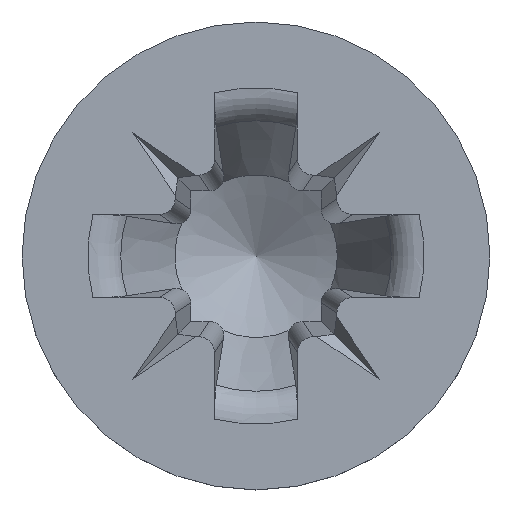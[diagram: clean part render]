
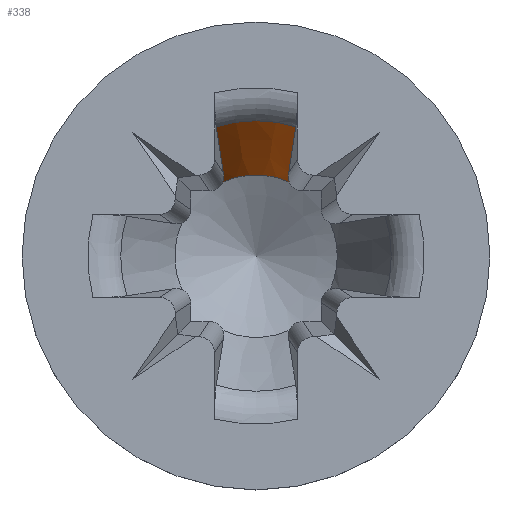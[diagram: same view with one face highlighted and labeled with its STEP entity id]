
A CAD part, top view. The second image highlights one B-rep face of the part: STEP entity #338.
In plain terms, the highlighted conical face has half-angle 26.5 degrees and reference radius 0.66 mm.
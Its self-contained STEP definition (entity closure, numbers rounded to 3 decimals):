
#324=CONICAL_SURFACE('',#1614,0.66,26.5);
#338=ADVANCED_FACE('',(#437),#324,.F.);
#437=FACE_OUTER_BOUND('',#533,.T.);
#533=EDGE_LOOP('',(#729,#730,#731,#732,#733,#734));
#631=CIRCLE('',#1612,1.098);
#632=CIRCLE('',#1613,0.66);
#729=ORIENTED_EDGE('',*,*,#1328,.T.);
#730=ORIENTED_EDGE('',*,*,#1329,.T.);
#731=ORIENTED_EDGE('',*,*,#1330,.T.);
#732=ORIENTED_EDGE('',*,*,#1331,.T.);
#733=ORIENTED_EDGE('',*,*,#1332,.T.);
#734=ORIENTED_EDGE('',*,*,#1333,.T.);
#1178=VERTEX_POINT('',#3622);
#1179=VERTEX_POINT('',#3623);
#1180=VERTEX_POINT('',#3625);
#1181=VERTEX_POINT('',#3630);
#1182=VERTEX_POINT('',#3635);
#1183=VERTEX_POINT('',#3637);
#1328=EDGE_CURVE('',#1178,#1179,#1513,.T.);
#1329=EDGE_CURVE('',#1179,#1180,#631,.T.);
#1330=EDGE_CURVE('',#1180,#1181,#1514,.T.);
#1331=EDGE_CURVE('',#1181,#1182,#1515,.T.);
#1332=EDGE_CURVE('',#1182,#1183,#632,.T.);
#1333=EDGE_CURVE('',#1183,#1178,#1516,.T.);
#1513=B_SPLINE_CURVE_WITH_KNOTS('',3,(#3618,#3619,#3620,#3621),
 .UNSPECIFIED.,.F.,.F.,(4,4),(0.,1.),.UNSPECIFIED.);
#1514=B_SPLINE_CURVE_WITH_KNOTS('',3,(#3626,#3627,#3628,#3629),
 .UNSPECIFIED.,.F.,.F.,(4,4),(0.,1.),.UNSPECIFIED.);
#1515=B_SPLINE_CURVE_WITH_KNOTS('',3,(#3631,#3632,#3633,#3634),
 .UNSPECIFIED.,.F.,.F.,(4,4),(0.,1.),.UNSPECIFIED.);
#1516=B_SPLINE_CURVE_WITH_KNOTS('',3,(#3638,#3639,#3640,#3641),
 .UNSPECIFIED.,.F.,.F.,(4,4),(0.,1.),.UNSPECIFIED.);
#1612=AXIS2_PLACEMENT_3D('',#3624,#1748,#1749);
#1613=AXIS2_PLACEMENT_3D('',#3636,#1750,#1751);
#1614=AXIS2_PLACEMENT_3D('',#3642,#1752,#1753);
#1748=DIRECTION('',(0.,0.,1.));
#1749=DIRECTION('',(1.,0.,0.));
#1750=DIRECTION('',(0.,0.,-1.));
#1751=DIRECTION('',(1.,0.,0.));
#1752=DIRECTION('',(0.,0.,1.));
#1753=DIRECTION('',(1.,0.,0.));
#3618=CARTESIAN_POINT('',(0.265,0.677,0.53));
#3619=CARTESIAN_POINT('',(0.285,0.802,0.777));
#3620=CARTESIAN_POINT('',(0.304,0.926,1.026));
#3621=CARTESIAN_POINT('',(0.323,1.049,1.274));
#3622=CARTESIAN_POINT('',(0.265,0.677,0.53));
#3623=CARTESIAN_POINT('',(0.323,1.049,1.274));
#3624=CARTESIAN_POINT('',(0.,0.,1.274));
#3625=CARTESIAN_POINT('',(-0.323,1.049,1.274));
#3626=CARTESIAN_POINT('',(-0.323,1.049,1.274));
#3627=CARTESIAN_POINT('',(-0.304,0.926,1.026));
#3628=CARTESIAN_POINT('',(-0.285,0.802,0.777));
#3629=CARTESIAN_POINT('',(-0.265,0.677,0.53));
#3630=CARTESIAN_POINT('',(-0.265,0.677,0.53));
#3631=CARTESIAN_POINT('',(-0.265,0.677,0.53));
#3632=CARTESIAN_POINT('',(-0.262,0.654,0.484));
#3633=CARTESIAN_POINT('',(-0.261,0.63,0.438));
#3634=CARTESIAN_POINT('',(-0.269,0.603,0.395));
#3635=CARTESIAN_POINT('',(-0.269,0.603,0.395));
#3636=CARTESIAN_POINT('',(0.,0.,0.395));
#3637=CARTESIAN_POINT('',(0.269,0.603,0.395));
#3638=CARTESIAN_POINT('',(0.269,0.603,0.395));
#3639=CARTESIAN_POINT('',(0.261,0.63,0.438));
#3640=CARTESIAN_POINT('',(0.262,0.654,0.484));
#3641=CARTESIAN_POINT('',(0.265,0.677,0.53));
#3642=CARTESIAN_POINT('',(0.,0.,0.395));
